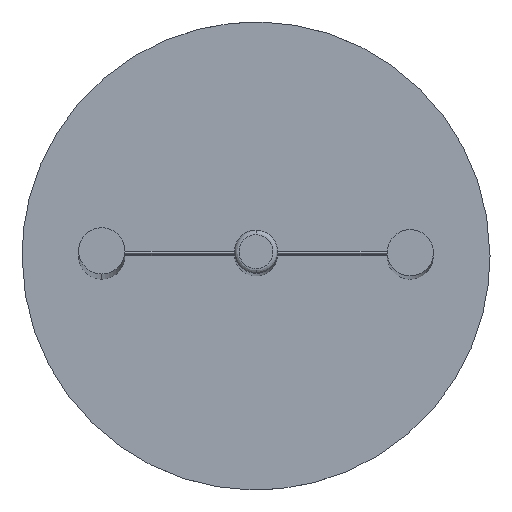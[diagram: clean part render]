
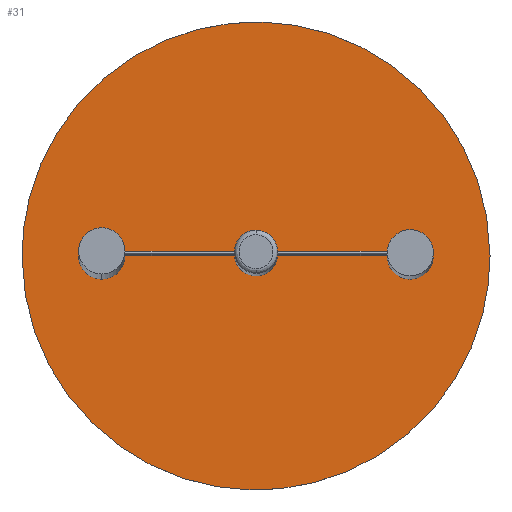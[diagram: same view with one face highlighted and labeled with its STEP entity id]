
A CAD part, top view. The second image highlights one B-rep face of the part: STEP entity #31.
In plain terms, the highlighted planar face has unit normal (0, 0, 1).
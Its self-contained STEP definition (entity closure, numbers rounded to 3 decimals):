
#14=FACE_BOUND('',#80,.T.);
#15=FACE_BOUND('',#81,.T.);
#31=ADVANCED_FACE('',(#55,#14,#15),#377,.T.);
#55=FACE_OUTER_BOUND('',#79,.T.);
#79=EDGE_LOOP('',(#134,#135));
#80=EDGE_LOOP('',(#136,#137));
#81=EDGE_LOOP('',(#138,#139));
#134=ORIENTED_EDGE('',*,*,#222,.T.);
#135=ORIENTED_EDGE('',*,*,#267,.T.);
#136=ORIENTED_EDGE('',*,*,#275,.F.);
#137=ORIENTED_EDGE('',*,*,#223,.F.);
#138=ORIENTED_EDGE('',*,*,#264,.F.);
#139=ORIENTED_EDGE('',*,*,#225,.F.);
#222=EDGE_CURVE('',#337,#366,#300,.T.);
#223=EDGE_CURVE('',#338,#370,#301,.T.);
#225=EDGE_CURVE('',#339,#363,#303,.T.);
#264=EDGE_CURVE('',#363,#339,#322,.T.);
#267=EDGE_CURVE('',#366,#337,#325,.T.);
#275=EDGE_CURVE('',#370,#338,#333,.T.);
#300=(
BOUNDED_CURVE()
B_SPLINE_CURVE(2,(#641,#642,#643,#644,#645),.UNSPECIFIED.,.F.,.F.)
B_SPLINE_CURVE_WITH_KNOTS((3,2,3),(0.,494.801,989.602),
 .UNSPECIFIED.)
CURVE()
GEOMETRIC_REPRESENTATION_ITEM()
RATIONAL_B_SPLINE_CURVE((1.,0.707,1.,0.707,1.))
REPRESENTATION_ITEM('')
);
#301=(
BOUNDED_CURVE()
B_SPLINE_CURVE(2,(#646,#647,#648,#649,#650),.UNSPECIFIED.,.F.,.F.)
B_SPLINE_CURVE_WITH_KNOTS((3,2,3),(0.,47.124,94.248),
 .UNSPECIFIED.)
CURVE()
GEOMETRIC_REPRESENTATION_ITEM()
RATIONAL_B_SPLINE_CURVE((1.,0.707,1.,0.707,1.))
REPRESENTATION_ITEM('')
);
#303=(
BOUNDED_CURVE()
B_SPLINE_CURVE(2,(#653,#654,#655,#656,#657),.UNSPECIFIED.,.F.,.F.)
B_SPLINE_CURVE_WITH_KNOTS((3,2,3),(0.,47.124,94.248),
 .UNSPECIFIED.)
CURVE()
GEOMETRIC_REPRESENTATION_ITEM()
RATIONAL_B_SPLINE_CURVE((1.,0.707,1.,0.707,1.))
REPRESENTATION_ITEM('')
);
#322=(
BOUNDED_CURVE()
B_SPLINE_CURVE(2,(#1223,#1224,#1225,#1226,#1227),.UNSPECIFIED.,.F.,.F.)
B_SPLINE_CURVE_WITH_KNOTS((3,2,3),(94.248,141.372,188.496),
 .UNSPECIFIED.)
CURVE()
GEOMETRIC_REPRESENTATION_ITEM()
RATIONAL_B_SPLINE_CURVE((1.,0.707,1.,0.707,1.))
REPRESENTATION_ITEM('')
);
#325=(
BOUNDED_CURVE()
B_SPLINE_CURVE(2,(#1235,#1236,#1237,#1238,#1239),.UNSPECIFIED.,.F.,.F.)
B_SPLINE_CURVE_WITH_KNOTS((3,2,3),(989.602,1484.403,1979.203),
 .UNSPECIFIED.)
CURVE()
GEOMETRIC_REPRESENTATION_ITEM()
RATIONAL_B_SPLINE_CURVE((1.,0.707,1.,0.707,1.))
REPRESENTATION_ITEM('')
);
#333=(
BOUNDED_CURVE()
B_SPLINE_CURVE(2,(#1267,#1268,#1269,#1270,#1271),.UNSPECIFIED.,.F.,.F.)
B_SPLINE_CURVE_WITH_KNOTS((3,2,3),(94.248,141.372,188.496),
 .UNSPECIFIED.)
CURVE()
GEOMETRIC_REPRESENTATION_ITEM()
RATIONAL_B_SPLINE_CURVE((1.,0.707,1.,0.707,1.))
REPRESENTATION_ITEM('')
);
#337=VERTEX_POINT('',#589);
#338=VERTEX_POINT('',#590);
#339=VERTEX_POINT('',#591);
#363=VERTEX_POINT('',#615);
#366=VERTEX_POINT('',#618);
#370=VERTEX_POINT('',#622);
#377=PLANE('',#493);
#493=AXIS2_PLACEMENT_3D('',#543,#518,$);
#518=DIRECTION('',(0.,0.,1.));
#543=CARTESIAN_POINT('',(-189.65,-189.65,6.));
#589=CARTESIAN_POINT('',(151.72,0.,6.));
#590=CARTESIAN_POINT('',(85.,0.,6.));
#591=CARTESIAN_POINT('',(-100.,15.,6.));
#615=CARTESIAN_POINT('',(-100.,-15.,6.));
#618=CARTESIAN_POINT('',(-151.72,0.,6.));
#622=CARTESIAN_POINT('',(115.,0.,6.));
#641=CARTESIAN_POINT('',(151.72,0.,6.));
#642=CARTESIAN_POINT('',(151.72,151.72,6.));
#643=CARTESIAN_POINT('',(0.,151.72,6.));
#644=CARTESIAN_POINT('',(-151.72,151.72,6.));
#645=CARTESIAN_POINT('',(-151.72,0.,6.));
#646=CARTESIAN_POINT('',(85.,0.,6.));
#647=CARTESIAN_POINT('',(85.,-15.,6.));
#648=CARTESIAN_POINT('',(100.,-15.,6.));
#649=CARTESIAN_POINT('',(115.,-15.,6.));
#650=CARTESIAN_POINT('',(115.,0.,6.));
#653=CARTESIAN_POINT('',(-100.,15.,6.));
#654=CARTESIAN_POINT('',(-115.,15.,6.));
#655=CARTESIAN_POINT('',(-115.,0.,6.));
#656=CARTESIAN_POINT('',(-115.,-15.,6.));
#657=CARTESIAN_POINT('',(-100.,-15.,6.));
#1223=CARTESIAN_POINT('',(-100.,-15.,6.));
#1224=CARTESIAN_POINT('',(-85.,-15.,6.));
#1225=CARTESIAN_POINT('',(-85.,0.,6.));
#1226=CARTESIAN_POINT('',(-85.,15.,6.));
#1227=CARTESIAN_POINT('',(-100.,15.,6.));
#1235=CARTESIAN_POINT('',(-151.72,0.,6.));
#1236=CARTESIAN_POINT('',(-151.72,-151.72,6.));
#1237=CARTESIAN_POINT('',(0.,-151.72,6.));
#1238=CARTESIAN_POINT('',(151.72,-151.72,6.));
#1239=CARTESIAN_POINT('',(151.72,0.,6.));
#1267=CARTESIAN_POINT('',(115.,0.,6.));
#1268=CARTESIAN_POINT('',(115.,15.,6.));
#1269=CARTESIAN_POINT('',(100.,15.,6.));
#1270=CARTESIAN_POINT('',(85.,15.,6.));
#1271=CARTESIAN_POINT('',(85.,0.,6.));
